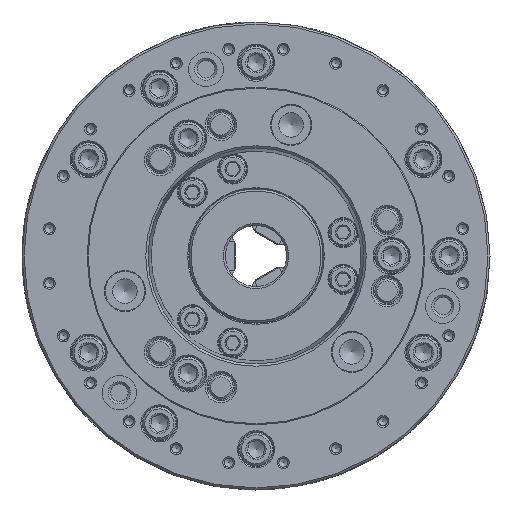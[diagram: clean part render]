
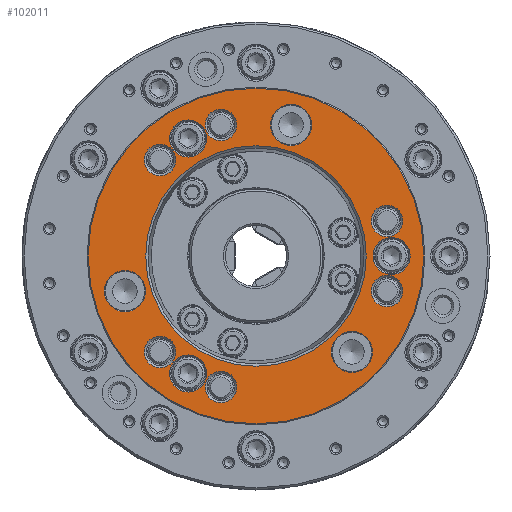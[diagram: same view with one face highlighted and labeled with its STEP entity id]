
A CAD part, left-side view. The second image highlights one B-rep face of the part: STEP entity #102011.
In plain terms, the highlighted planar face has unit normal (-1, 0, 0).
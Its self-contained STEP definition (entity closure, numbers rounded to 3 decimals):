
#1204 = EDGE_CURVE ( 'NONE', #84640, #84640, #13618, .T. ) ;
#1455 = EDGE_LOOP ( 'NONE', ( #19158 ) ) ;
#1493 = PLANE ( 'NONE',  #11373 ) ;
#1501 = DIRECTION ( 'NONE',  ( -1., 0., 0. ) ) ;
#2254 = CARTESIAN_POINT ( 'NONE',  ( -110., -64.403, -17.257 ) ) ;
#3803 = CARTESIAN_POINT ( 'NONE',  ( -110., 17.257, 64.403 ) ) ;
#4220 = CARTESIAN_POINT ( 'NONE',  ( -110., -8.484, 69.468 ) ) ;
#4564 = VERTEX_POINT ( 'NONE', #12709 ) ;
#5242 = VERTEX_POINT ( 'NONE', #38779 ) ;
#6083 = DIRECTION ( 'NONE',  ( -1., 0., 0. ) ) ;
#8533 = FACE_BOUND ( 'NONE', #64631, .T. ) ;
#9018 = EDGE_LOOP ( 'NONE', ( #67929 ) ) ;
#9022 = EDGE_LOOP ( 'NONE', ( #98572 ) ) ;
#9186 = EDGE_LOOP ( 'NONE', ( #83499 ) ) ;
#9857 = CIRCLE ( 'NONE', #58406, 7.75 ) ;
#11373 = AXIS2_PLACEMENT_3D ( 'NONE', #34468, #77690, #101469 ) ;
#11546 = ORIENTED_EDGE ( 'NONE', *, *, #61515, .F. ) ;
#11719 = FACE_BOUND ( 'NONE', #96234, .T. ) ;
#12052 = DIRECTION ( 'NONE',  ( 0., -0.866, 0.5 ) ) ;
#12385 = EDGE_LOOP ( 'NONE', ( #11546 ) ) ;
#12709 = CARTESIAN_POINT ( 'NONE',  ( -110., 0., 54.189 ) ) ;
#13319 = EDGE_CURVE ( 'NONE', #88872, #88872, #34325, .T. ) ;
#13335 = CIRCLE ( 'NONE', #25386, 9.1 ) ;
#13618 = CIRCLE ( 'NONE', #63613, 10.13 ) ;
#14874 = VERTEX_POINT ( 'NONE', #57019 ) ;
#15569 = AXIS2_PLACEMENT_3D ( 'NONE', #58866, #26441, #17777 ) ;
#17190 = FACE_BOUND ( 'NONE', #52838, .T. ) ;
#17719 = FACE_OUTER_BOUND ( 'NONE', #9022, .T. ) ;
#17728 = DIRECTION ( 'NONE',  ( 0., 0., 1. ) ) ;
#17777 = DIRECTION ( 'NONE',  ( 0., 0., 1. ) ) ;
#18239 = FACE_BOUND ( 'NONE', #9018, .T. ) ;
#18589 = CARTESIAN_POINT ( 'NONE',  ( -110., -47.146, -47.146 ) ) ;
#18832 = AXIS2_PLACEMENT_3D ( 'NONE', #24839, #42629, #66447 ) ;
#19158 = ORIENTED_EDGE ( 'NONE', *, *, #77640, .F. ) ;
#19435 = CARTESIAN_POINT ( 'NONE',  ( -110., -64.403, -9.507 ) ) ;
#20044 = AXIS2_PLACEMENT_3D ( 'NONE', #3803, #86529, #53016 ) ;
#22174 = DIRECTION ( 'NONE',  ( -1., 0., 0. ) ) ;
#22345 = CARTESIAN_POINT ( 'NONE',  ( -110., 47.146, 47.146 ) ) ;
#23414 = VERTEX_POINT ( 'NONE', #39089 ) ;
#24839 = CARTESIAN_POINT ( 'NONE',  ( -110., 17.257, -64.403 ) ) ;
#25386 = AXIS2_PLACEMENT_3D ( 'NONE', #30264, #22174, #88114 ) ;
#25591 = AXIS2_PLACEMENT_3D ( 'NONE', #45561, #86633, #36911 ) ;
#25610 = CARTESIAN_POINT ( 'NONE',  ( -110., 0., 0. ) ) ;
#26120 = EDGE_CURVE ( 'NONE', #4564, #4564, #91430, .T. ) ;
#26441 = DIRECTION ( 'NONE',  ( -1., 0., 0. ) ) ;
#27537 = DIRECTION ( 'NONE',  ( -1., 0., 0. ) ) ;
#27551 = CARTESIAN_POINT ( 'NONE',  ( -110., 17.257, 72.153 ) ) ;
#27786 = DIRECTION ( 'NONE',  ( 1., 0., 0. ) ) ;
#28764 = EDGE_CURVE ( 'NONE', #44768, #44768, #81228, .T. ) ;
#29659 = VERTEX_POINT ( 'NONE', #4220 ) ;
#29791 = DIRECTION ( 'NONE',  ( 0., 0.866, 0.5 ) ) ;
#29878 = CIRCLE ( 'NONE', #81677, 7.75 ) ;
#30264 = CARTESIAN_POINT ( 'NONE',  ( -110., 33.338, 57.742 ) ) ;
#30883 = CIRCLE ( 'NONE', #34354, 7.75 ) ;
#32180 = ORIENTED_EDGE ( 'NONE', *, *, #13319, .F. ) ;
#32330 = VERTEX_POINT ( 'NONE', #105845 ) ;
#32634 = AXIS2_PLACEMENT_3D ( 'NONE', #104897, #47632, #29791 ) ;
#33639 = DIRECTION ( 'NONE',  ( -1., 0., 0. ) ) ;
#34152 = ORIENTED_EDGE ( 'NONE', *, *, #93071, .F. ) ;
#34325 = CIRCLE ( 'NONE', #18832, 7.75 ) ;
#34354 = AXIS2_PLACEMENT_3D ( 'NONE', #22345, #6083, #103419 ) ;
#34468 = CARTESIAN_POINT ( 'NONE',  ( -110., 82.5, 0. ) ) ;
#35109 = VERTEX_POINT ( 'NONE', #19435 ) ;
#35242 = EDGE_CURVE ( 'NONE', #62588, #62588, #106817, .T. ) ;
#35711 = EDGE_CURVE ( 'NONE', #5242, #5242, #30883, .T. ) ;
#35891 = CIRCLE ( 'NONE', #54860, 9.1 ) ;
#36911 = DIRECTION ( 'NONE',  ( 0., 0., 1. ) ) ;
#37261 = CARTESIAN_POINT ( 'NONE',  ( -110., 33.337, -57.742 ) ) ;
#38535 = ORIENTED_EDGE ( 'NONE', *, *, #26120, .F. ) ;
#38779 = CARTESIAN_POINT ( 'NONE',  ( -110., 47.146, 54.896 ) ) ;
#39089 = CARTESIAN_POINT ( 'NONE',  ( -110., 33.337, -48.642 ) ) ;
#39115 = EDGE_LOOP ( 'NONE', ( #32180 ) ) ;
#40226 = CARTESIAN_POINT ( 'NONE',  ( -110., 17.257, -56.653 ) ) ;
#41539 = FACE_BOUND ( 'NONE', #64480, .T. ) ;
#42629 = DIRECTION ( 'NONE',  ( -1., 0., 0. ) ) ;
#43218 = DIRECTION ( 'NONE',  ( 0., 0., 1. ) ) ;
#43650 = FACE_BOUND ( 'NONE', #12385, .T. ) ;
#44768 = VERTEX_POINT ( 'NONE', #52346 ) ;
#45561 = CARTESIAN_POINT ( 'NONE',  ( -110., 47.146, -47.146 ) ) ;
#45770 = CIRCLE ( 'NONE', #20044, 7.75 ) ;
#45865 = ORIENTED_EDGE ( 'NONE', *, *, #1204, .T. ) ;
#47632 = DIRECTION ( 'NONE',  ( 1., 0., 0. ) ) ;
#50475 = DIRECTION ( 'NONE',  ( 0., 0., 1. ) ) ;
#51780 = FACE_BOUND ( 'NONE', #64505, .T. ) ;
#52346 = CARTESIAN_POINT ( 'NONE',  ( -110., 0., 82.5 ) ) ;
#52838 = EDGE_LOOP ( 'NONE', ( #57126 ) ) ;
#53016 = DIRECTION ( 'NONE',  ( 0., 0., 1. ) ) ;
#53937 = CARTESIAN_POINT ( 'NONE',  ( -110., -66.675, 9.1 ) ) ;
#54860 = AXIS2_PLACEMENT_3D ( 'NONE', #37261, #86466, #87522 ) ;
#57019 = CARTESIAN_POINT ( 'NONE',  ( -110., -64.403, 25.007 ) ) ;
#57126 = ORIENTED_EDGE ( 'NONE', *, *, #83663, .F. ) ;
#57226 = FACE_BOUND ( 'NONE', #39115, .T. ) ;
#58406 = AXIS2_PLACEMENT_3D ( 'NONE', #2254, #33639, #66641 ) ;
#58561 = DIRECTION ( 'NONE',  ( -1., 0., 0. ) ) ;
#58866 = CARTESIAN_POINT ( 'NONE',  ( -110., 0., 0. ) ) ;
#59217 = CARTESIAN_POINT ( 'NONE',  ( -110., -55.919, -42.081 ) ) ;
#59251 = DIRECTION ( 'NONE',  ( 1., 0., 0. ) ) ;
#59855 = FACE_BOUND ( 'NONE', #1455, .T. ) ;
#60239 = AXIS2_PLACEMENT_3D ( 'NONE', #91302, #27537, #43218 ) ;
#61054 = VERTEX_POINT ( 'NONE', #27551 ) ;
#61515 = EDGE_CURVE ( 'NONE', #14874, #14874, #29878, .T. ) ;
#62588 = VERTEX_POINT ( 'NONE', #53937 ) ;
#62643 = VERTEX_POINT ( 'NONE', #69671 ) ;
#63613 = AXIS2_PLACEMENT_3D ( 'NONE', #18589, #27786, #12052 ) ;
#63713 = VERTEX_POINT ( 'NONE', #86437 ) ;
#64480 = EDGE_LOOP ( 'NONE', ( #45865 ) ) ;
#64505 = EDGE_LOOP ( 'NONE', ( #70373 ) ) ;
#64631 = EDGE_LOOP ( 'NONE', ( #96493 ) ) ;
#66447 = DIRECTION ( 'NONE',  ( 0., 0., 1. ) ) ;
#66641 = DIRECTION ( 'NONE',  ( 0., 0., 1. ) ) ;
#67929 = ORIENTED_EDGE ( 'NONE', *, *, #91694, .T. ) ;
#69671 = CARTESIAN_POINT ( 'NONE',  ( -110., 33.338, 66.842 ) ) ;
#70211 = ORIENTED_EDGE ( 'NONE', *, *, #80866, .F. ) ;
#70373 = ORIENTED_EDGE ( 'NONE', *, *, #35242, .F. ) ;
#70420 = AXIS2_PLACEMENT_3D ( 'NONE', #93814, #59251, #84132 ) ;
#71204 = EDGE_LOOP ( 'NONE', ( #79333 ) ) ;
#74006 = CIRCLE ( 'NONE', #70420, 10.13 ) ;
#77640 = EDGE_CURVE ( 'NONE', #23414, #23414, #35891, .T. ) ;
#77690 = DIRECTION ( 'NONE',  ( 1., 0., 0. ) ) ;
#79322 = EDGE_LOOP ( 'NONE', ( #38535 ) ) ;
#79333 = ORIENTED_EDGE ( 'NONE', *, *, #35711, .F. ) ;
#80866 = EDGE_CURVE ( 'NONE', #35109, #35109, #9857, .T. ) ;
#81032 = CIRCLE ( 'NONE', #32634, 10.13 ) ;
#81228 = CIRCLE ( 'NONE', #105361, 82.5 ) ;
#81677 = AXIS2_PLACEMENT_3D ( 'NONE', #98843, #1501, #17728 ) ;
#83499 = ORIENTED_EDGE ( 'NONE', *, *, #97880, .F. ) ;
#83663 = EDGE_CURVE ( 'NONE', #61054, #61054, #45770, .T. ) ;
#84132 = DIRECTION ( 'NONE',  ( 0., 0., -1. ) ) ;
#84640 = VERTEX_POINT ( 'NONE', #59217 ) ;
#84751 = FACE_BOUND ( 'NONE', #89330, .T. ) ;
#85258 = FACE_BOUND ( 'NONE', #71204, .T. ) ;
#86437 = CARTESIAN_POINT ( 'NONE',  ( -110., 64.403, -27.387 ) ) ;
#86466 = DIRECTION ( 'NONE',  ( -1., 0., 0. ) ) ;
#86529 = DIRECTION ( 'NONE',  ( -1., 0., 0. ) ) ;
#86633 = DIRECTION ( 'NONE',  ( -1., 0., 0. ) ) ;
#87522 = DIRECTION ( 'NONE',  ( 0., 0., 1. ) ) ;
#88114 = DIRECTION ( 'NONE',  ( 0., 0., 1. ) ) ;
#88872 = VERTEX_POINT ( 'NONE', #40226 ) ;
#88959 = EDGE_CURVE ( 'NONE', #29659, #29659, #81032, .T. ) ;
#89330 = EDGE_LOOP ( 'NONE', ( #70211 ) ) ;
#91208 = FACE_BOUND ( 'NONE', #9186, .T. ) ;
#91302 = CARTESIAN_POINT ( 'NONE',  ( -110., -66.675, 0. ) ) ;
#91430 = CIRCLE ( 'NONE', #15569, 54.189 ) ;
#91694 = EDGE_CURVE ( 'NONE', #63713, #63713, #74006, .T. ) ;
#92807 = FACE_BOUND ( 'NONE', #79322, .T. ) ;
#93071 = EDGE_CURVE ( 'NONE', #62643, #62643, #13335, .T. ) ;
#93814 = CARTESIAN_POINT ( 'NONE',  ( -110., 64.403, -17.257 ) ) ;
#96234 = EDGE_LOOP ( 'NONE', ( #34152 ) ) ;
#96493 = ORIENTED_EDGE ( 'NONE', *, *, #88959, .T. ) ;
#97880 = EDGE_CURVE ( 'NONE', #32330, #32330, #104946, .T. ) ;
#98572 = ORIENTED_EDGE ( 'NONE', *, *, #28764, .T. ) ;
#98843 = CARTESIAN_POINT ( 'NONE',  ( -110., -64.403, 17.257 ) ) ;
#101469 = DIRECTION ( 'NONE',  ( 0., 0., -1. ) ) ;
#102011 = ADVANCED_FACE ( 'NONE', ( #8533, #41539, #91208, #57226, #17190, #59855, #11719, #18239, #84751, #43650, #51780, #92807, #17719, #85258 ), #1493, .F. ) ;
#103419 = DIRECTION ( 'NONE',  ( 0., 0., 1. ) ) ;
#104897 = CARTESIAN_POINT ( 'NONE',  ( -110., -17.257, 64.403 ) ) ;
#104946 = CIRCLE ( 'NONE', #25591, 7.75 ) ;
#105361 = AXIS2_PLACEMENT_3D ( 'NONE', #25610, #58561, #50475 ) ;
#105845 = CARTESIAN_POINT ( 'NONE',  ( -110., 47.146, -39.396 ) ) ;
#106817 = CIRCLE ( 'NONE', #60239, 9.1 ) ;
